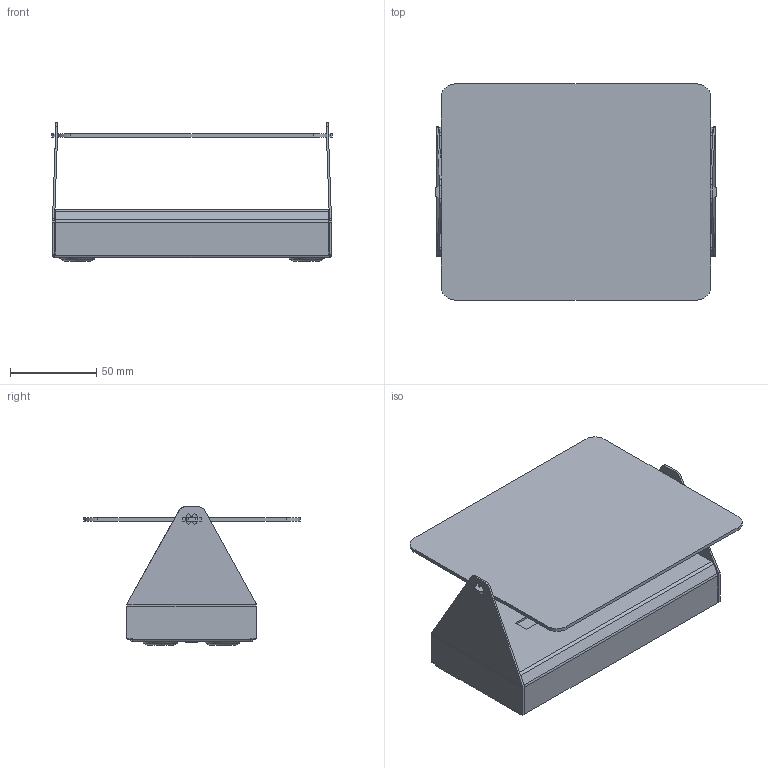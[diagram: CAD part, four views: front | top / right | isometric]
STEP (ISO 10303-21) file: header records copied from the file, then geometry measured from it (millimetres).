
FILE_DESCRIPTION (( 'STEP AP214' ), '1' );
FILE_NAME ('3D_APPLIQUE_A_VOLET_PIVOTANT_LED.STEP', '2018-03-23T09:22:04', ( 'Utente' ), ( '' ), 'SwSTEP 2.0', 'SolidWorks 2016', '' );
FILE_SCHEMA (( 'AUTOMOTIVE_DESIGN' ));
Length unit declared in the file: millimetre
Products named in the file (4): 010AVP700311 VOLE SINGLEMARTI-1^3D_APPLIQUE_A_VOLET_PIVOTANT_LED; Group3^3D_APPLIQUE_A_VOLET_PIVOTANT_LED; 3D_APPLIQUE_A_VOLET_PIVOTANT_LED; 052AVP000100 DIFFUSORE LEDMARTI-1^3D_APPLIQUE_A_VOLET_PIVOTANT_LED
Assembly tree (3 placements, depth 2):
  3D_APPLIQUE_A_VOLET_PIVOTANT_LED
    Group3^3D_APPLIQUE_A_VOLET_PIVOTANT_LED
    010AVP700311 VOLE SINGLEMARTI-1^3D_APPLIQUE_A_VOLET_PIVOTANT_LED
    052AVP000100 DIFFUSORE LEDMARTI-1^3D_APPLIQUE_A_VOLET_PIVOTANT_LED
Bounding box: 162 x 125 x 79.92 mm (x, y, z)
Volume: 95874.2 mm3; surface area: 135492.8 mm2
Topology: 4 solids, 4 shells, 262 faces, 621 edges, 378 vertices
Faces by surface type: plane 136, cylinder 80, torus 22, cone 20, bspline 4
Entity records: 7714 total; most frequent: DIRECTION 1373, CARTESIAN_POINT 1319, ORIENTED_EDGE 1242, EDGE_CURVE 621, AXIS2_PLACEMENT_3D 496, VECTOR 381, LINE 381, VERTEX_POINT 378
